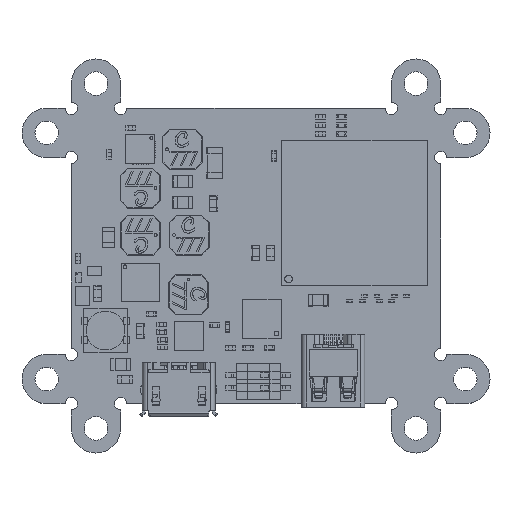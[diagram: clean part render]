
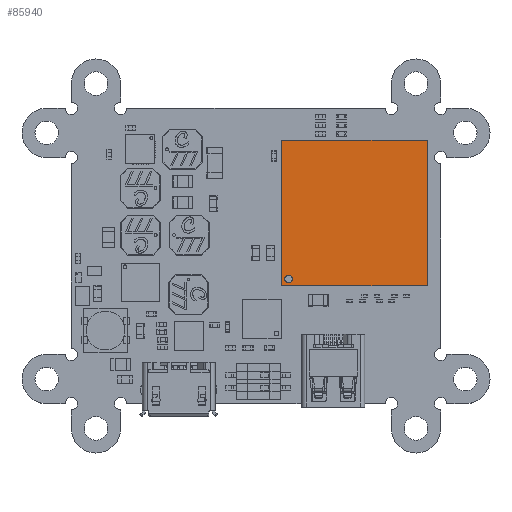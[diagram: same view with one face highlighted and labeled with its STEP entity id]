
A CAD part, top view. The second image highlights one B-rep face of the part: STEP entity #85940.
In plain terms, the highlighted planar face has unit normal (0, 0, 1).
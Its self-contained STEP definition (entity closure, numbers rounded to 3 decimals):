
#85626 = VERTEX_POINT('',#85627);
#85627 = CARTESIAN_POINT('',(-7.5,-7.5,1.25));
#85634 = PLANE('',#85635);
#85635 = AXIS2_PLACEMENT_3D('',#85636,#85637,#85638);
#85636 = CARTESIAN_POINT('',(-7.5,-7.5,0.));
#85637 = DIRECTION('',(0.,1.,0.));
#85638 = DIRECTION('',(1.,0.,0.));
#85646 = PLANE('',#85647);
#85647 = AXIS2_PLACEMENT_3D('',#85648,#85649,#85650);
#85648 = CARTESIAN_POINT('',(-7.5,7.5,0.));
#85649 = DIRECTION('',(1.,0.,0.));
#85650 = DIRECTION('',(0.,-1.,0.));
#85658 = EDGE_CURVE('',#85626,#85659,#85661,.T.);
#85659 = VERTEX_POINT('',#85660);
#85660 = CARTESIAN_POINT('',(7.5,-7.5,1.25));
#85661 = SURFACE_CURVE('',#85662,(#85666,#85673),.PCURVE_S1.);
#85662 = LINE('',#85663,#85664);
#85663 = CARTESIAN_POINT('',(-7.5,-7.5,1.25));
#85664 = VECTOR('',#85665,1.);
#85665 = DIRECTION('',(1.,0.,0.));
#85666 = PCURVE('',#85634,#85667);
#85667 = DEFINITIONAL_REPRESENTATION('',(#85668),#85672);
#85668 = LINE('',#85669,#85670);
#85669 = CARTESIAN_POINT('',(0.,-1.25));
#85670 = VECTOR('',#85671,1.);
#85671 = DIRECTION('',(1.,0.));
#85672 = ( GEOMETRIC_REPRESENTATION_CONTEXT(2) 
PARAMETRIC_REPRESENTATION_CONTEXT() REPRESENTATION_CONTEXT('2D SPACE',''
  ) );
#85673 = PCURVE('',#85674,#85679);
#85674 = PLANE('',#85675);
#85675 = AXIS2_PLACEMENT_3D('',#85676,#85677,#85678);
#85676 = CARTESIAN_POINT('',(-7.5,-7.5,1.25));
#85677 = DIRECTION('',(0.,0.,-1.));
#85678 = DIRECTION('',(-1.,0.,0.));
#85679 = DEFINITIONAL_REPRESENTATION('',(#85680),#85684);
#85680 = LINE('',#85681,#85682);
#85681 = CARTESIAN_POINT('',(0.,0.));
#85682 = VECTOR('',#85683,1.);
#85683 = DIRECTION('',(-1.,0.));
#85684 = ( GEOMETRIC_REPRESENTATION_CONTEXT(2) 
PARAMETRIC_REPRESENTATION_CONTEXT() REPRESENTATION_CONTEXT('2D SPACE',''
  ) );
#85702 = PLANE('',#85703);
#85703 = AXIS2_PLACEMENT_3D('',#85704,#85705,#85706);
#85704 = CARTESIAN_POINT('',(7.5,-7.5,0.));
#85705 = DIRECTION('',(-1.,0.,0.));
#85706 = DIRECTION('',(0.,1.,0.));
#85744 = EDGE_CURVE('',#85659,#85745,#85747,.T.);
#85745 = VERTEX_POINT('',#85746);
#85746 = CARTESIAN_POINT('',(7.5,7.5,1.25));
#85747 = SURFACE_CURVE('',#85748,(#85752,#85759),.PCURVE_S1.);
#85748 = LINE('',#85749,#85750);
#85749 = CARTESIAN_POINT('',(7.5,-7.5,1.25));
#85750 = VECTOR('',#85751,1.);
#85751 = DIRECTION('',(0.,1.,0.));
#85752 = PCURVE('',#85702,#85753);
#85753 = DEFINITIONAL_REPRESENTATION('',(#85754),#85758);
#85754 = LINE('',#85755,#85756);
#85755 = CARTESIAN_POINT('',(0.,-1.25));
#85756 = VECTOR('',#85757,1.);
#85757 = DIRECTION('',(1.,0.));
#85758 = ( GEOMETRIC_REPRESENTATION_CONTEXT(2) 
PARAMETRIC_REPRESENTATION_CONTEXT() REPRESENTATION_CONTEXT('2D SPACE',''
  ) );
#85759 = PCURVE('',#85674,#85760);
#85760 = DEFINITIONAL_REPRESENTATION('',(#85761),#85765);
#85761 = LINE('',#85762,#85763);
#85762 = CARTESIAN_POINT('',(-15.,0.));
#85763 = VECTOR('',#85764,1.);
#85764 = DIRECTION('',(0.,1.));
#85765 = ( GEOMETRIC_REPRESENTATION_CONTEXT(2) 
PARAMETRIC_REPRESENTATION_CONTEXT() REPRESENTATION_CONTEXT('2D SPACE',''
  ) );
#85783 = PLANE('',#85784);
#85784 = AXIS2_PLACEMENT_3D('',#85785,#85786,#85787);
#85785 = CARTESIAN_POINT('',(7.5,7.5,0.));
#85786 = DIRECTION('',(0.,-1.,0.));
#85787 = DIRECTION('',(-1.,0.,0.));
#85820 = EDGE_CURVE('',#85745,#85821,#85823,.T.);
#85821 = VERTEX_POINT('',#85822);
#85822 = CARTESIAN_POINT('',(-7.5,7.5,1.25));
#85823 = SURFACE_CURVE('',#85824,(#85828,#85835),.PCURVE_S1.);
#85824 = LINE('',#85825,#85826);
#85825 = CARTESIAN_POINT('',(7.5,7.5,1.25));
#85826 = VECTOR('',#85827,1.);
#85827 = DIRECTION('',(-1.,0.,0.));
#85828 = PCURVE('',#85783,#85829);
#85829 = DEFINITIONAL_REPRESENTATION('',(#85830),#85834);
#85830 = LINE('',#85831,#85832);
#85831 = CARTESIAN_POINT('',(0.,-1.25));
#85832 = VECTOR('',#85833,1.);
#85833 = DIRECTION('',(1.,0.));
#85834 = ( GEOMETRIC_REPRESENTATION_CONTEXT(2) 
PARAMETRIC_REPRESENTATION_CONTEXT() REPRESENTATION_CONTEXT('2D SPACE',''
  ) );
#85835 = PCURVE('',#85674,#85836);
#85836 = DEFINITIONAL_REPRESENTATION('',(#85837),#85841);
#85837 = LINE('',#85838,#85839);
#85838 = CARTESIAN_POINT('',(-15.,15.));
#85839 = VECTOR('',#85840,1.);
#85840 = DIRECTION('',(1.,0.));
#85841 = ( GEOMETRIC_REPRESENTATION_CONTEXT(2) 
PARAMETRIC_REPRESENTATION_CONTEXT() REPRESENTATION_CONTEXT('2D SPACE',''
  ) );
#85891 = EDGE_CURVE('',#85821,#85626,#85892,.T.);
#85892 = SURFACE_CURVE('',#85893,(#85897,#85904),.PCURVE_S1.);
#85893 = LINE('',#85894,#85895);
#85894 = CARTESIAN_POINT('',(-7.5,7.5,1.25));
#85895 = VECTOR('',#85896,1.);
#85896 = DIRECTION('',(0.,-1.,0.));
#85897 = PCURVE('',#85646,#85898);
#85898 = DEFINITIONAL_REPRESENTATION('',(#85899),#85903);
#85899 = LINE('',#85900,#85901);
#85900 = CARTESIAN_POINT('',(0.,-1.25));
#85901 = VECTOR('',#85902,1.);
#85902 = DIRECTION('',(1.,0.));
#85903 = ( GEOMETRIC_REPRESENTATION_CONTEXT(2) 
PARAMETRIC_REPRESENTATION_CONTEXT() REPRESENTATION_CONTEXT('2D SPACE',''
  ) );
#85904 = PCURVE('',#85674,#85905);
#85905 = DEFINITIONAL_REPRESENTATION('',(#85906),#85910);
#85906 = LINE('',#85907,#85908);
#85907 = CARTESIAN_POINT('',(0.,15.));
#85908 = VECTOR('',#85909,1.);
#85909 = DIRECTION('',(0.,-1.));
#85910 = ( GEOMETRIC_REPRESENTATION_CONTEXT(2) 
PARAMETRIC_REPRESENTATION_CONTEXT() REPRESENTATION_CONTEXT('2D SPACE',''
  ) );
#85940 = ADVANCED_FACE('',(#85941),#85674,.F.);
#85941 = FACE_BOUND('',#85942,.T.);
#85942 = EDGE_LOOP('',(#85943,#85944,#85945,#85946));
#85943 = ORIENTED_EDGE('',*,*,#85658,.T.);
#85944 = ORIENTED_EDGE('',*,*,#85744,.T.);
#85945 = ORIENTED_EDGE('',*,*,#85820,.T.);
#85946 = ORIENTED_EDGE('',*,*,#85891,.T.);
